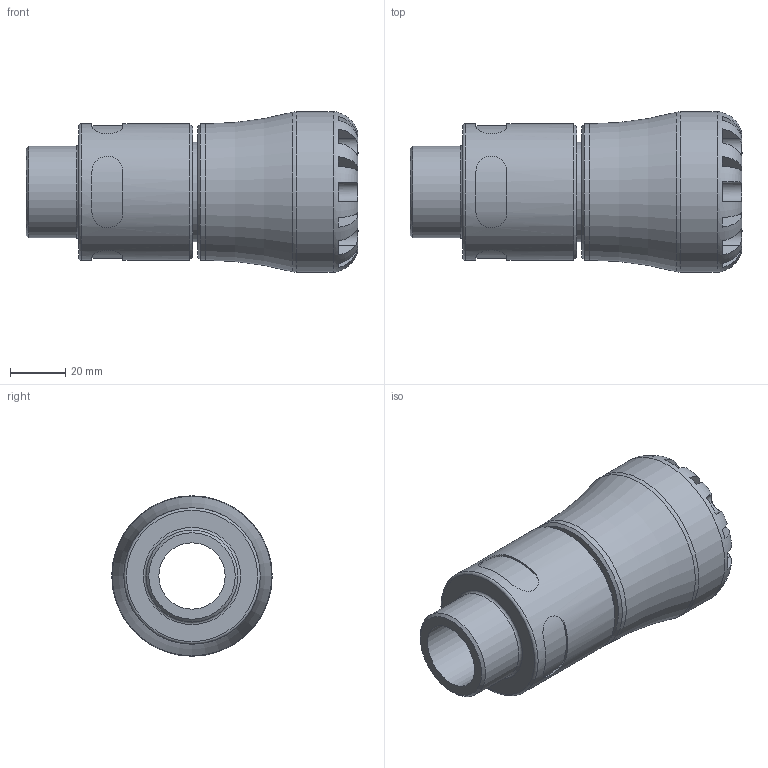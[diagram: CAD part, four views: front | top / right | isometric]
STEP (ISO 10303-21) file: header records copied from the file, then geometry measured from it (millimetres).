
FILE_DESCRIPTION(/* description */ ('PLASSON MALE ADAPTOR 32X1" SERIES 1'),/* implementation_level */ '2;1');
FILE_NAME(/* name */ 'C:\Dropbox\KIMPROJECTS-Inventor 2019\99-16-3568-Processing\S1\10N20\stp\10N200032010_10N2G0032010.stp',/* time_stamp */ '2024-03-12T13:19:24+01:00',/* author */ ('KIM'),/* organization */ (''),/* preprocessor_version */ 'ST-DEVELOPER v17.2',/* originating_system */ 'Autodesk Inventor 2019',/* authorisation */ '');
FILE_SCHEMA (('AUTOMOTIVE_DESIGN { 1 0 10303 214 3 1 1 }'));
Length unit declared in the file: millimetre
Products named in the file (1): 10N200032010_10N2G0032010
Bounding box: 120 x 58 x 58 mm (x, y, z)
Volume: 151332 mm3; surface area: 34963.5 mm2
Topology: 1 solids, 1 shells, 106 faces, 279 edges, 182 vertices
Faces by surface type: plane 62, cylinder 35, torus 5, cone 4
Full cylindrical faces by diameter (mm): 24 x1, 32 x1, 33.249 x1, 36 x1, 49.3 x2, 58 x1
Entity records: 4224 total; most frequent: CARTESIAN_POINT 1490, ORIENTED_EDGE 558, DIRECTION 552, EDGE_CURVE 279, AXIS2_PLACEMENT_3D 230, VERTEX_POINT 182, CIRCLE 123, EDGE_LOOP 115
